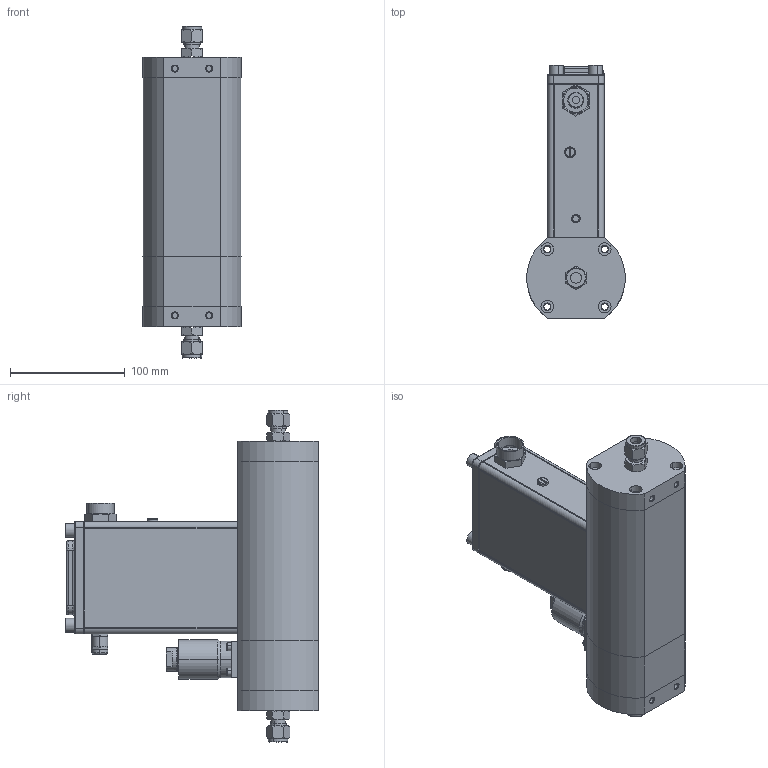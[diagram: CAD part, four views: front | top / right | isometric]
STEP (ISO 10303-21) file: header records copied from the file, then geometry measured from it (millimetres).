
FILE_DESCRIPTION (( 'STEP AP203' ), '1' );
FILE_NAME ('SLAMF53-S-2C-2-K-REVB.STEP', '2019-12-18T18:27:19', ( '' ), ( '' ), 'SwSTEP 2.0', 'SolidWorks 2019', '' );
FILE_SCHEMA (( 'CONFIG_CONTROL_DESIGN' ));
Length unit declared in the file: inch
Products named in the file (2): SLAMF53-S-2C-2-K-REVB
Bounding box: 85.67 x 220.78 x 289.76 mm (x, y, z)
Surface area: 153028.9 mm2 (no closed solid volume)
Topology: 0 solids, 38 shells, 430 faces, 1227 edges, 836 vertices
Faces by surface type: plane 187, cylinder 141, cone 75, bspline 27
Entity records: 16004 total; most frequent: CARTESIAN_POINT 4764, DIRECTION 2380, ORIENTED_EDGE 2043, EDGE_CURVE 1225, AXIS2_PLACEMENT_3D 922, VERTEX_POINT 836, VECTOR 536, LINE 536
